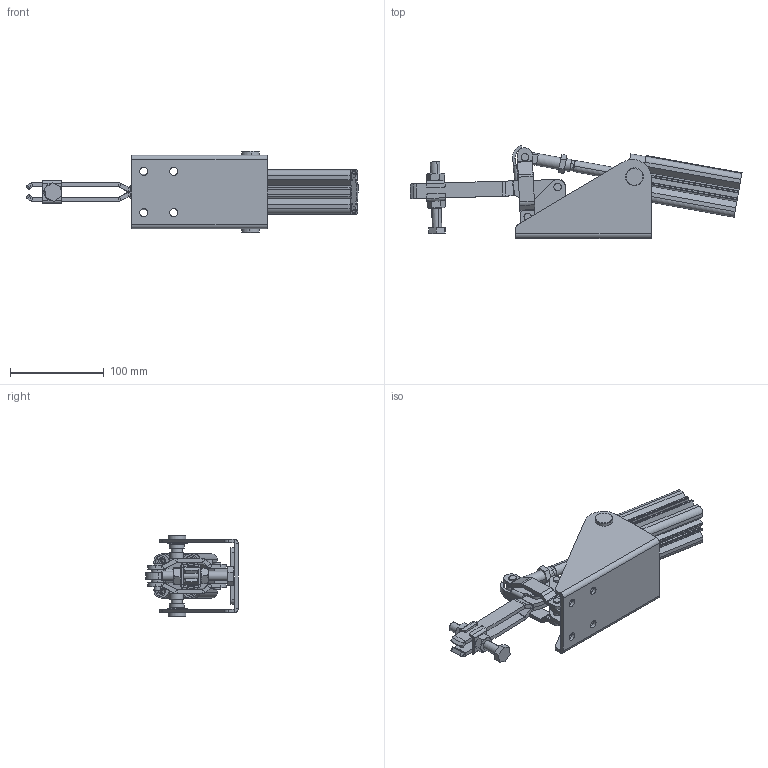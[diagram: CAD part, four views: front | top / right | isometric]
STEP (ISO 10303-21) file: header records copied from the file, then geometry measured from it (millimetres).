
FILE_DESCRIPTION (( 'STEP AP203' ), '1' );
FILE_NAME ('KF-011 DBL P.STEP', '2016-12-15T10:27:25', ( 'Ricardo' ), ( '' ), 'SwSTEP 2.0', 'SolidWorks 2015', '' );
FILE_SCHEMA (( 'CONFIG_CONTROL_DESIGN' ));
Length unit declared in the file: millimetre
Products named in the file (22): 12.50004; 06.50007; 11.50003; 06.50008; 14.10003; 15.10052; 501-016; 15.20006; 02.12009_Direita; 1 PC 21287; 16.20067; 02.12009_Esquerda; 2 PC 21287; CNKFE032KT; 01.10088; 3 PC 21287; 03.14004_Direita; 04.10002; 2800320600CP_avan㌢do; 03.14004_Esquerda; 04.20002; KF-011 DBL P
Assembly tree (28 placements, depth 3):
  KF-011 DBL P
    02.12009_Direita
    02.12009_Esquerda
    01.10088  x2
    04.10002
    04.20002
    06.50007  x2
    06.50008  x2
    15.10052
    15.20006
    16.20067  x2
    CNKFE032KT
    03.14004_Direita
    03.14004_Esquerda
    12.50004
    11.50003  x2
    14.10003  x2
    501-016  x2
    2800320600CP_avan㌢do
      1 PC 21287
      2 PC 21287
      3 PC 21287
Bounding box: 354.51 x 99.27 x 86.5 mm (x, y, z)
Volume: 333901.2 mm3; surface area: 180269.7 mm2
Topology: 27 solids, 27 shells, 826 faces, 1948 edges, 1207 vertices
Faces by surface type: plane 377, cylinder 370, cone 78, sphere 1
Entity records: 22503 total; most frequent: CARTESIAN_POINT 3718, DIRECTION 3645, ORIENTED_EDGE 3194, EDGE_CURVE 1597, AXIS2_PLACEMENT_3D 1387, VERTEX_POINT 1002, VECTOR 871, LINE 871
